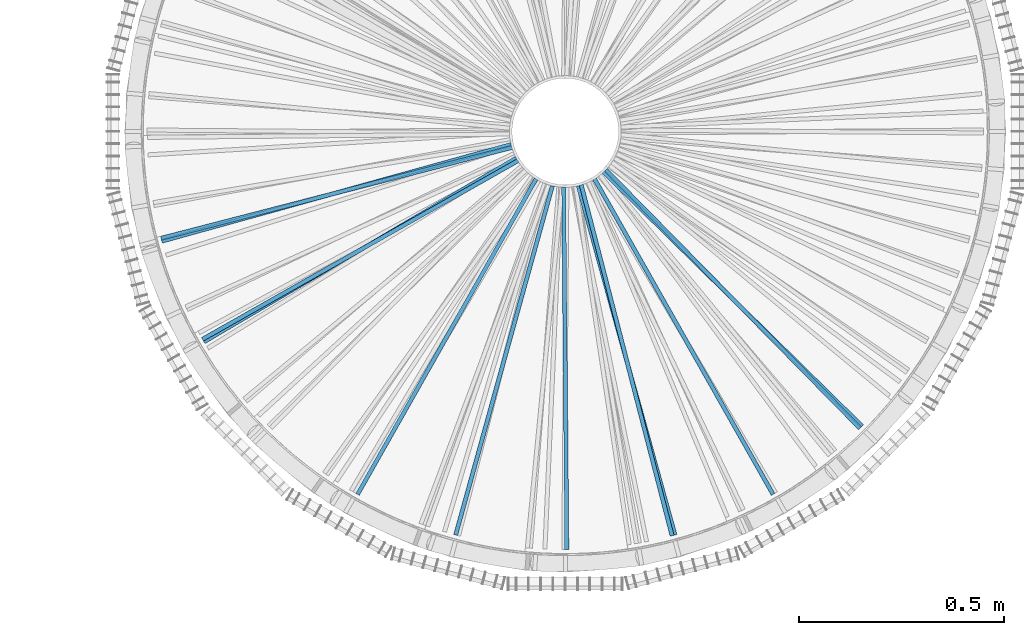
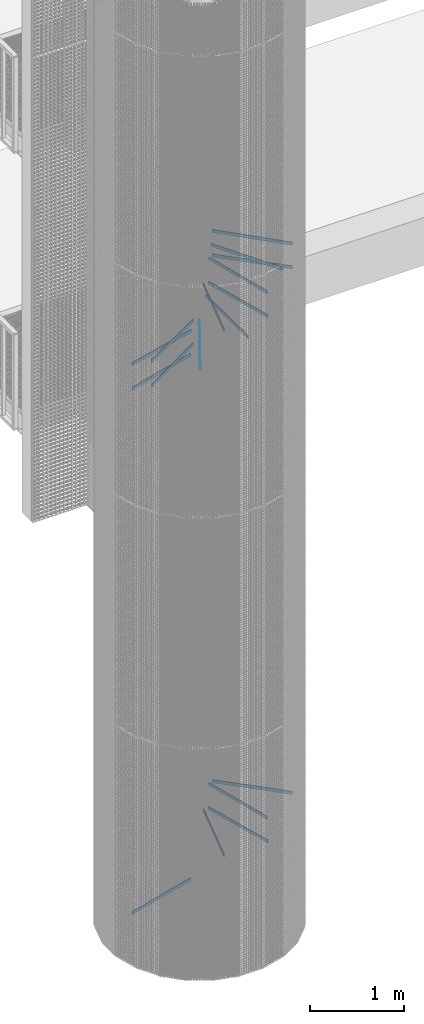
# One storey, part 178 of 1183: 17 beams, 2 elements without a shape of their own.
"""IFC2X3 building model written with IfcOpenShell, lengths in millimetres."""

from ifc_helpers import new_model, si_unit, frame, origin_with_axes, origin_2d_with_axis, place, context, subcontext, project, spatial, polyline, rectangle, outline, extrude, boolean, material, type_object, element, aggregate, save


model = new_model("IFC2X3")

# Units and contexts
model_context = context("Model", 3, precision=1e-05, world=origin_with_axes())
body_context = subcontext(model_context, "Body", "Model", "MODEL_VIEW")
ifc_project = project(units=[si_unit("LENGTHUNIT", "METRE", prefix="MILLI"), si_unit("AREAUNIT", "SQUARE_METRE"), si_unit("VOLUMEUNIT", "CUBIC_METRE"), si_unit("MASSUNIT", "GRAM", prefix="KILO"), si_unit("TIMEUNIT", "SECOND"), si_unit("PLANEANGLEUNIT", "RADIAN"), si_unit("SOLIDANGLEUNIT", "STERADIAN"), si_unit("THERMODYNAMICTEMPERATUREUNIT", "DEGREE_CELSIUS"), si_unit("LUMINOUSINTENSITYUNIT", "LUMEN")], contexts=[model_context])

# Site, building, storey
site_placement = place(None, origin_with_axes())
site = spatial("IfcSite", under=ifc_project, at=site_placement, Name="Undefined", CompositionType="ELEMENT")
building_placement = place(site_placement, origin_with_axes())
building = spatial("IfcBuilding", under=site, at=building_placement, Name="Undefined", CompositionType="ELEMENT")
storey_placement = place(building_placement, origin_with_axes())
storey = spatial("IfcBuildingStorey", under=building, at=storey_placement, Name="Undefined", CompositionType="ELEMENT", Elevation=0.0)

# Assembly, beams
assembly_1_placement = place(storey_placement, origin_with_axes())
assembly_1 = element("IfcElementAssembly", 1, at=assembly_1_placement, inside=storey, Name="POTEAU", AssemblyPlace="NOTDEFINED", PredefinedType="NOTDEFINED")
ifc_material = material(Name="STEEL/S235JR")
beam_type = type_object("IfcBeamType", Name="PL10*40", PredefinedType="NOTDEFINED")
beam_1_placement = place(assembly_1_placement, frame((25.8705774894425, -79.9781805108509, 8657.28000000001), z_axis=(0.0, 0.0, 1.0), x_axis=(0.250629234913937, -0.968083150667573, 0.0)))
beam_1 = element("IfcBeam", 2, at=beam_1_placement, type_object=beam_type, material=ifc_material, Name="RAIDISSEUR", context=body_context, shape_type="CSG", body=[
    boolean("DIFFERENCE", extrude(rectangle(XDim=10.0, YDim=40.0, at=origin_2d_with_axis()), frame((935.982964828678, -2.59787459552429e-14, -3.63797880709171e-12), z_axis=(-1.0, 0.0, 0.0), x_axis=(0.0, -1.0, 0.0)), (0.0, 0.0, 1.0), 935.98), extrude(outline(polyline([(0.0, 0.0), (30.5663019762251, -4.91127138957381e-11), (60.366242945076, 6.80164206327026), (87.9055294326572, 20.0638634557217), (111.803226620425, 39.1216410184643), (130.861004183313, 63.0193382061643), (144.123225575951, 90.5586246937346), (150.9248676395, 120.358565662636), (150.924867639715, 150.924867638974), (144.123225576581, 180.724808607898), (130.86100418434, 208.264095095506), (111.803226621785, 232.161792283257), (87.9055294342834, 251.219569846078), (60.3662429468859, 264.481791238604), (30.5663019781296, 271.283433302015), (1.90266291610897e-09, 271.28343330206), (-29.7999409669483, 264.481791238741), (-57.3392274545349, 251.219569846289), (-81.2369246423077, 232.161792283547), (-100.294702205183, 208.26409509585), (-113.556923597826, 180.724808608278), (-120.35856566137, 150.92486763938), (-120.358565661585, 120.358565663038), (-113.556923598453, 90.5586246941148), (-100.294702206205, 63.0193382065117), (-81.2369246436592, 39.1216410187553), (-57.3392274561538, 20.0638634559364), (-29.7999409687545, 6.80164206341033), (0.0, 0.0)])), frame((-121.404134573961, -136.249376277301, -22.5), z_axis=(0.0, 0.0, 1.0), x_axis=(0.986243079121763, -0.165301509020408, 0.0)), (0.0, 0.0, 1.0), 45.0)),
])
beam_2_placement = place(assembly_1_placement, frame((-17.5845129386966, -82.1984248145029, 8344.24000000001), z_axis=(0.0, 0.0, 1.0), x_axis=(-0.266990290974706, -0.963699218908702, 0.0)))
beam_2 = element("IfcBeam", 3, at=beam_2_placement, type_object=beam_type, material=ifc_material, Name="RAIDISSEUR", context=body_context, shape_type="CSG", body=[
    boolean("DIFFERENCE", extrude(rectangle(XDim=10.0, YDim=40.0, at=origin_2d_with_axis()), frame((935.982964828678, -2.59787459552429e-14, -3.63797880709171e-12), z_axis=(-1.0, 0.0, 0.0), x_axis=(0.0, -1.0, 0.0)), (0.0, 0.0, 1.0), 935.98), extrude(outline(polyline([(0.0, 0.0), (30.5663019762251, -4.91127138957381e-11), (60.366242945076, 6.80164206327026), (87.9055294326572, 20.0638634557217), (111.803226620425, 39.1216410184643), (130.861004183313, 63.0193382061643), (144.123225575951, 90.5586246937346), (150.9248676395, 120.358565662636), (150.924867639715, 150.924867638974), (144.123225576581, 180.724808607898), (130.86100418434, 208.264095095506), (111.803226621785, 232.161792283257), (87.9055294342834, 251.219569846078), (60.3662429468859, 264.481791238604), (30.5663019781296, 271.283433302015), (1.90266291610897e-09, 271.28343330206), (-29.7999409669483, 264.481791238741), (-57.3392274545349, 251.219569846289), (-81.2369246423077, 232.161792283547), (-100.294702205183, 208.26409509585), (-113.556923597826, 180.724808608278), (-120.35856566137, 150.92486763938), (-120.358565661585, 120.358565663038), (-113.556923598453, 90.5586246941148), (-100.294702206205, 63.0193382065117), (-81.2369246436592, 39.1216410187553), (-57.3392274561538, 20.0638634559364), (-29.7999409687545, 6.80164206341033), (0.0, 0.0)])), frame((-50.7561114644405, -137.412635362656, -22.5), z_axis=(0.0, 0.0, 1.0), x_axis=(0.936762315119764, 0.349966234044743, 0.0)), (0.0, 0.0, 1.0), 45.0)),
])
beam_3_placement = place(assembly_1_placement, frame((-74.8463745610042, -38.2598530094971, 7561.64), z_axis=(0.0, 0.0, 1.0), x_axis=(-0.861759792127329, -0.507316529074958, 0.0)))
beam_3 = element("IfcBeam", 4, at=beam_3_placement, type_object=beam_type, material=ifc_material, Name="RAIDISSEUR", context=body_context, shape_type="CSG", body=[
    boolean("DIFFERENCE", extrude(rectangle(XDim=10.0, YDim=40.0, at=origin_2d_with_axis()), frame((935.982964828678, -2.59787459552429e-14, -3.63797880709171e-12), z_axis=(-1.0, 0.0, 0.0), x_axis=(0.0, -1.0, 0.0)), (0.0, 0.0, 1.0), 935.98), extrude(outline(polyline([(0.0, 0.0), (30.5663019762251, -4.91127138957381e-11), (60.366242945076, 6.80164206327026), (87.9055294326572, 20.0638634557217), (111.803226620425, 39.1216410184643), (130.861004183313, 63.0193382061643), (144.123225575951, 90.5586246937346), (150.9248676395, 120.358565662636), (150.924867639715, 150.924867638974), (144.123225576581, 180.724808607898), (130.86100418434, 208.264095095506), (111.803226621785, 232.161792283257), (87.9055294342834, 251.219569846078), (60.3662429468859, 264.481791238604), (30.5663019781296, 271.283433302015), (1.90266291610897e-09, 271.28343330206), (-29.7999409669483, 264.481791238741), (-57.3392274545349, 251.219569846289), (-81.2369246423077, 232.161792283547), (-100.294702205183, 208.26409509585), (-113.556923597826, 180.724808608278), (-120.35856566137, 150.92486763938), (-120.358565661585, 120.358565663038), (-113.556923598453, 90.5586246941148), (-100.294702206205, 63.0193382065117), (-81.2369246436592, 39.1216410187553), (-57.3392274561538, 20.0638634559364), (-29.7999409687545, 6.80164206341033), (0.0, 0.0)])), frame((31.9577797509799, -67.1597852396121, -22.5000000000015), z_axis=(0.0, 0.0, 1.0), x_axis=(0.430278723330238, 0.902696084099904, 0.0)), (0.0, 0.0, 1.0), 45.0)),
])
beam_4_placement = place(assembly_1_placement, frame((62.3936675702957, -56.3278473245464, 8970.32000000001), z_axis=(0.0, 0.0, 1.0), x_axis=(0.701092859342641, -0.713069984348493, 0.0)))
beam_4 = element("IfcBeam", 5, at=beam_4_placement, type_object=beam_type, material=ifc_material, Name="RAIDISSEUR", context=body_context, shape_type="CSG", body=[
    boolean("DIFFERENCE", extrude(rectangle(XDim=10.0, YDim=40.0, at=origin_2d_with_axis()), frame((935.982964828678, -2.59787459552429e-14, -3.63797880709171e-12), z_axis=(-1.0, 0.0, 0.0), x_axis=(0.0, -1.0, 0.0)), (0.0, 0.0, 1.0), 935.98), extrude(outline(polyline([(0.0, 0.0), (30.5663019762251, -4.91127138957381e-11), (60.366242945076, 6.80164206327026), (87.9055294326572, 20.0638634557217), (111.803226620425, 39.1216410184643), (130.861004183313, 63.0193382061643), (144.123225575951, 90.5586246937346), (150.9248676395, 120.358565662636), (150.924867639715, 150.924867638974), (144.123225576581, 180.724808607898), (130.86100418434, 208.264095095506), (111.803226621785, 232.161792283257), (87.9055294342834, 251.219569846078), (60.3662429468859, 264.481791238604), (30.5663019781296, 271.283433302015), (1.90266291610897e-09, 271.28343330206), (-29.7999409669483, 264.481791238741), (-57.3392274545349, 251.219569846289), (-81.2369246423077, 232.161792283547), (-100.294702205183, 208.26409509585), (-113.556923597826, 180.724808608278), (-120.35856566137, 150.92486763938), (-120.358565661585, 120.358565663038), (-113.556923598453, 90.5586246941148), (-100.294702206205, 63.0193382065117), (-81.2369246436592, 39.1216410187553), (-57.3392274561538, 20.0638634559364), (-29.7999409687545, 6.80164206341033), (0.0, 0.0)])), frame((-182.005487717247, -99.9179528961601, -22.5), z_axis=(0.0, 0.0, 1.0), x_axis=(0.771460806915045, -0.636276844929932, 0.0)), (0.0, 0.0, 1.0), 45.0)),
])
beam_5_placement = place(assembly_1_placement, frame((-82.1984248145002, -17.5845129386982, 7405.12), z_axis=(0.0, 0.0, 1.0), x_axis=(-0.963699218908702, -0.266990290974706, 0.0)))
beam_5 = element("IfcBeam", 6, at=beam_5_placement, type_object=beam_type, material=ifc_material, Name="RAIDISSEUR", context=body_context, shape_type="CSG", body=[
    boolean("DIFFERENCE", extrude(rectangle(XDim=10.0, YDim=40.0, at=origin_2d_with_axis()), frame((935.982964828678, -2.59787459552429e-14, -3.63797880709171e-12), z_axis=(-1.0, 0.0, 0.0), x_axis=(0.0, -1.0, 0.0)), (0.0, 0.0, 1.0), 935.98), extrude(outline(polyline([(0.0, 0.0), (30.5663019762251, -4.91127138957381e-11), (60.366242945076, 6.80164206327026), (87.9055294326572, 20.0638634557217), (111.803226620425, 39.1216410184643), (130.861004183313, 63.0193382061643), (144.123225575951, 90.5586246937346), (150.9248676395, 120.358565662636), (150.924867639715, 150.924867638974), (144.123225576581, 180.724808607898), (130.86100418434, 208.264095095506), (111.803226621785, 232.161792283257), (87.9055294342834, 251.219569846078), (60.3662429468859, 264.481791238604), (30.5663019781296, 271.283433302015), (1.90266291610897e-09, 271.28343330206), (-29.7999409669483, 264.481791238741), (-57.3392274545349, 251.219569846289), (-81.2369246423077, 232.161792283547), (-100.294702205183, 208.26409509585), (-113.556923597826, 180.724808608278), (-120.35856566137, 150.92486763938), (-120.358565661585, 120.358565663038), (-113.556923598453, 90.5586246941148), (-100.294702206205, 63.0193382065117), (-81.2369246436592, 39.1216410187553), (-57.3392274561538, 20.0638634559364), (-29.7999409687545, 6.80164206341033), (0.0, 0.0)])), frame((46.6860262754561, -34.7123538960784, -22.5), z_axis=(0.0, 0.0, 1.0), x_axis=(0.181982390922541, 0.983301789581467, 0.0)), (0.0, 0.0, 1.0), 45.0)),
])
beam_6_placement = place(assembly_1_placement, frame((-70.5571919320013, -45.6889352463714, 7874.68), z_axis=(0.0, 0.0, 1.0), x_axis=(-0.870228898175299, -0.492647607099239, 0.0)))
beam_6 = element("IfcBeam", 7, at=beam_6_placement, type_object=beam_type, material=ifc_material, Name="RAIDISSEUR", context=body_context, shape_type="CSG", body=[
    boolean("DIFFERENCE", extrude(rectangle(XDim=10.0, YDim=40.0, at=origin_2d_with_axis()), frame((935.982964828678, -2.59787459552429e-14, -3.63797880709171e-12), z_axis=(-1.0, 0.0, 0.0), x_axis=(0.0, -1.0, 0.0)), (0.0, 0.0, 1.0), 935.98), extrude(outline(polyline([(0.0, 0.0), (30.5663019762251, -4.91127138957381e-11), (60.366242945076, 6.80164206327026), (87.9055294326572, 20.0638634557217), (111.803226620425, 39.1216410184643), (130.861004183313, 63.0193382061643), (144.123225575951, 90.5586246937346), (150.9248676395, 120.358565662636), (150.924867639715, 150.924867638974), (144.123225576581, 180.724808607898), (130.86100418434, 208.264095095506), (111.803226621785, 232.161792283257), (87.9055294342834, 251.219569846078), (60.3662429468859, 264.481791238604), (30.5663019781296, 271.283433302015), (1.90266291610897e-09, 271.28343330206), (-29.7999409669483, 264.481791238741), (-57.3392274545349, 251.219569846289), (-81.2369246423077, 232.161792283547), (-100.294702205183, 208.26409509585), (-113.556923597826, 180.724808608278), (-120.35856566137, 150.92486763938), (-120.358565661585, 120.358565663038), (-113.556923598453, 90.5586246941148), (-100.294702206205, 63.0193382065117), (-81.2369246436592, 39.1216410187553), (-57.3392274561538, 20.0638634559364), (-29.7999409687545, 6.80164206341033), (0.0, 0.0)])), frame((33.1633723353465, -75.1869204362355, -22.5), z_axis=(0.0, 0.0, 1.0), x_axis=(0.414927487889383, 0.909854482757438, 0.0)), (0.0, 0.0, 1.0), 45.0)),
])
beam_7_placement = place(assembly_1_placement, frame((-45.6889352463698, -70.5571919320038, 7874.68), z_axis=(0.0, 0.0, 1.0), x_axis=(-0.492647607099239, -0.870228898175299, 0.0)))
beam_7 = element("IfcBeam", 8, at=beam_7_placement, type_object=beam_type, material=ifc_material, Name="RAIDISSEUR", context=body_context, shape_type="CSG", body=[
    boolean("DIFFERENCE", extrude(rectangle(XDim=10.0, YDim=40.0, at=origin_2d_with_axis()), frame((935.982964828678, -2.59787459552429e-14, -3.63797880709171e-12), z_axis=(-1.0, 0.0, 0.0), x_axis=(0.0, -1.0, 0.0)), (0.0, 0.0, 1.0), 935.98), extrude(outline(polyline([(0.0, 0.0), (30.5663019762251, -4.91127138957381e-11), (60.366242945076, 6.80164206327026), (87.9055294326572, 20.0638634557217), (111.803226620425, 39.1216410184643), (130.861004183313, 63.0193382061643), (144.123225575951, 90.5586246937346), (150.9248676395, 120.358565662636), (150.924867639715, 150.924867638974), (144.123225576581, 180.724808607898), (130.86100418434, 208.264095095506), (111.803226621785, 232.161792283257), (87.9055294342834, 251.219569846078), (60.3662429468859, 264.481791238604), (30.5663019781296, 271.283433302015), (1.90266291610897e-09, 271.28343330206), (-29.7999409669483, 264.481791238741), (-57.3392274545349, 251.219569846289), (-81.2369246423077, 232.161792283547), (-100.294702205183, 208.26409509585), (-113.556923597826, 180.724808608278), (-120.35856566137, 150.92486763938), (-120.358565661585, 120.358565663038), (-113.556923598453, 90.5586246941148), (-100.294702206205, 63.0193382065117), (-81.2369246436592, 39.1216410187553), (-57.3392274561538, 20.0638634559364), (-29.7999409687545, 6.80164206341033), (0.0, 0.0)])), frame((-19.6453784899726, -115.425823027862, -22.5), z_axis=(0.0, 0.0, 1.0), x_axis=(0.823980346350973, 0.56661838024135, 0.0)), (0.0, 0.0, 1.0), 45.0)),
])
beam_8_placement = place(assembly_1_placement, frame((-79.9781805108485, -25.8705774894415, 7718.16), z_axis=(0.0, 0.0, 1.0), x_axis=(-0.968083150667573, -0.250629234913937, 0.0)))
beam_8 = element("IfcBeam", 9, at=beam_8_placement, type_object=beam_type, material=ifc_material, Name="RAIDISSEUR", context=body_context, shape_type="CSG", body=[
    boolean("DIFFERENCE", extrude(rectangle(XDim=10.0, YDim=40.0, at=origin_2d_with_axis()), frame((935.982964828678, -2.59787459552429e-14, -3.63797880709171e-12), z_axis=(-1.0, 0.0, 0.0), x_axis=(0.0, -1.0, 0.0)), (0.0, 0.0, 1.0), 935.98), extrude(outline(polyline([(0.0, 0.0), (30.5663019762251, -4.91127138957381e-11), (60.366242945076, 6.80164206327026), (87.9055294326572, 20.0638634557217), (111.803226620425, 39.1216410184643), (130.861004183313, 63.0193382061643), (144.123225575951, 90.5586246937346), (150.9248676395, 120.358565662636), (150.924867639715, 150.924867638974), (144.123225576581, 180.724808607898), (130.86100418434, 208.264095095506), (111.803226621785, 232.161792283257), (87.9055294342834, 251.219569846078), (60.3662429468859, 264.481791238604), (30.5663019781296, 271.283433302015), (1.90266291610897e-09, 271.28343330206), (-29.7999409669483, 264.481791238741), (-57.3392274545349, 251.219569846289), (-81.2369246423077, 232.161792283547), (-100.294702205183, 208.26409509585), (-113.556923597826, 180.724808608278), (-120.35856566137, 150.92486763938), (-120.358565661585, 120.358565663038), (-113.556923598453, 90.5586246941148), (-100.294702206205, 63.0193382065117), (-81.2369246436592, 39.1216410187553), (-57.3392274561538, 20.0638634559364), (-29.7999409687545, 6.80164206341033), (0.0, 0.0)])), frame((47.3399242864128, -42.4946825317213, -22.4999999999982), z_axis=(0.0, 0.0, 1.0), x_axis=(0.165301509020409, 0.986243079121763, 0.0)), (0.0, 0.0, 1.0), 45.0)),
])
beam_9_placement = place(assembly_1_placement, frame((-4.28918262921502, -83.9487882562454, 8187.72), z_axis=(0.0, 0.0, 1.0), x_axis=(0.00846910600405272, -0.99996413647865, 0.0)))
beam_9 = element("IfcBeam", 10, at=beam_9_placement, type_object=beam_type, material=ifc_material, Name="RAIDISSEUR", context=body_context, shape_type="CSG", body=[
    boolean("DIFFERENCE", extrude(rectangle(XDim=10.0, YDim=40.0, at=origin_2d_with_axis()), frame((935.982964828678, -2.59787459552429e-14, -3.63797880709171e-12), z_axis=(-1.0, 0.0, 0.0), x_axis=(0.0, -1.0, 0.0)), (0.0, 0.0, 1.0), 935.98), extrude(outline(polyline([(0.0, 0.0), (30.5663019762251, -4.91127138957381e-11), (60.366242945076, 6.80164206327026), (87.9055294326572, 20.0638634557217), (111.803226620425, 39.1216410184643), (130.861004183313, 63.0193382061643), (144.123225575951, 90.5586246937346), (150.9248676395, 120.358565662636), (150.924867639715, 150.924867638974), (144.123225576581, 180.724808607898), (130.86100418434, 208.264095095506), (111.803226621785, 232.161792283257), (87.9055294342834, 251.219569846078), (60.3662429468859, 264.481791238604), (30.5663019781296, 271.283433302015), (1.90266291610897e-09, 271.28343330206), (-29.7999409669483, 264.481791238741), (-57.3392274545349, 251.219569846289), (-81.2369246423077, 232.161792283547), (-100.294702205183, 208.26409509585), (-113.556923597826, 180.724808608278), (-120.35856566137, 150.92486763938), (-120.358565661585, 120.358565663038), (-113.556923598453, 90.5586246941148), (-100.294702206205, 63.0193382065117), (-81.2369246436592, 39.1216410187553), (-57.3392274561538, 20.0638634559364), (-29.7999409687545, 6.80164206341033), (0.0, 0.0)])), frame((-88.4680432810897, -131.423858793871, -22.5000000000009), z_axis=(0.0, 0.0, 1.0), x_axis=(0.996897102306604, 0.0787157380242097, 0.0)), (0.0, 0.0, 1.0), 45.0)),
])
beam_10_placement = place(assembly_1_placement, frame((17.5845129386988, -82.1984248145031, 8344.24000000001), z_axis=(0.0, 0.0, 1.0), x_axis=(0.266990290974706, -0.963699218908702, 0.0)))
beam_10 = element("IfcBeam", 11, at=beam_10_placement, type_object=beam_type, material=ifc_material, Name="RAIDISSEUR", context=body_context, shape_type="CSG", body=[
    boolean("DIFFERENCE", extrude(rectangle(XDim=10.0, YDim=40.0, at=origin_2d_with_axis()), frame((935.982964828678, -2.59787459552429e-14, -3.63797880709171e-12), z_axis=(-1.0, 0.0, 0.0), x_axis=(0.0, -1.0, 0.0)), (0.0, 0.0, 1.0), 935.98), extrude(outline(polyline([(0.0, 0.0), (30.5663019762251, -4.91127138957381e-11), (60.366242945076, 6.80164206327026), (87.9055294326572, 20.0638634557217), (111.803226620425, 39.1216410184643), (130.861004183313, 63.0193382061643), (144.123225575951, 90.5586246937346), (150.9248676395, 120.358565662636), (150.924867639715, 150.924867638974), (144.123225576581, 180.724808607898), (130.86100418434, 208.264095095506), (111.803226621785, 232.161792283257), (87.9055294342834, 251.219569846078), (60.3662429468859, 264.481791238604), (30.5663019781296, 271.283433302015), (1.90266291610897e-09, 271.28343330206), (-29.7999409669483, 264.481791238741), (-57.3392274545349, 251.219569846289), (-81.2369246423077, 232.161792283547), (-100.294702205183, 208.26409509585), (-113.556923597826, 180.724808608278), (-120.35856566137, 150.92486763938), (-120.358565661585, 120.358565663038), (-113.556923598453, 90.5586246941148), (-100.294702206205, 63.0193382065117), (-81.2369246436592, 39.1216410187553), (-57.3392274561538, 20.0638634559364), (-29.7999409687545, 6.80164206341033), (0.0, 0.0)])), frame((-123.621805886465, -125.595478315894, -22.5), z_axis=(0.0, 0.0, 1.0), x_axis=(0.983301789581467, -0.181982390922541, 0.0)), (0.0, 0.0, 1.0), 45.0)),
])
beam_11_placement = place(assembly_1_placement, frame((56.3278473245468, -62.3936675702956, 8657.28000000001), z_axis=(0.0, 0.0, 1.0), x_axis=(0.713069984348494, -0.70109285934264, 0.0)))
beam_11 = element("IfcBeam", 12, at=beam_11_placement, type_object=beam_type, material=ifc_material, Name="RAIDISSEUR", context=body_context, shape_type="CSG", body=[
    boolean("DIFFERENCE", extrude(rectangle(XDim=10.0, YDim=40.0, at=origin_2d_with_axis()), frame((935.982964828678, -2.59787459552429e-14, -3.63797880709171e-12), z_axis=(-1.0, 0.0, 0.0), x_axis=(0.0, -1.0, 0.0)), (0.0, 0.0, 1.0), 935.98), extrude(outline(polyline([(0.0, 0.0), (30.5663019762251, -4.91127138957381e-11), (60.366242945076, 6.80164206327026), (87.9055294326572, 20.0638634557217), (111.803226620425, 39.1216410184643), (130.861004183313, 63.0193382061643), (144.123225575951, 90.5586246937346), (150.9248676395, 120.358565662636), (150.924867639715, 150.924867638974), (144.123225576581, 180.724808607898), (130.86100418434, 208.264095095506), (111.803226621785, 232.161792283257), (87.9055294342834, 251.219569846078), (60.3662429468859, 264.481791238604), (30.5663019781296, 271.283433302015), (1.90266291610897e-09, 271.28343330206), (-29.7999409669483, 264.481791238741), (-57.3392274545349, 251.219569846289), (-81.2369246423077, 232.161792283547), (-100.294702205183, 208.26409509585), (-113.556923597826, 180.724808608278), (-120.35856566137, 150.92486763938), (-120.358565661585, 120.358565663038), (-113.556923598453, 90.5586246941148), (-100.294702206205, 63.0193382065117), (-81.2369246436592, 39.1216410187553), (-57.3392274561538, 20.0638634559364), (-29.7999409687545, 6.80164206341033), (0.0, 0.0)])), frame((-183.599098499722, -88.2428248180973, -22.5), z_axis=(0.0, 0.0, 1.0), x_axis=(0.760573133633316, -0.649252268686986, 0.0)), (0.0, 0.0, 1.0), 45.0)),
])
beam_12_placement = place(assembly_1_placement, frame((45.6889352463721, -70.5571919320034, 8813.80000000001), z_axis=(0.0, 0.0, 1.0), x_axis=(0.492647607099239, -0.870228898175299, 0.0)))
beam_12 = element("IfcBeam", 13, at=beam_12_placement, type_object=beam_type, material=ifc_material, Name="RAIDISSEUR", context=body_context, shape_type="CSG", body=[
    boolean("DIFFERENCE", extrude(rectangle(XDim=10.0, YDim=40.0, at=origin_2d_with_axis()), frame((935.982964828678, -2.59787459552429e-14, -3.63797880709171e-12), z_axis=(-1.0, 0.0, 0.0), x_axis=(0.0, -1.0, 0.0)), (0.0, 0.0, 1.0), 935.98), extrude(outline(polyline([(0.0, 0.0), (30.5663019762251, -4.91127138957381e-11), (60.366242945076, 6.80164206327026), (87.9055294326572, 20.0638634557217), (111.803226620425, 39.1216410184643), (130.861004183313, 63.0193382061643), (144.123225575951, 90.5586246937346), (150.9248676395, 120.358565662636), (150.924867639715, 150.924867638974), (144.123225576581, 180.724808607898), (130.86100418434, 208.264095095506), (111.803226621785, 232.161792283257), (87.9055294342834, 251.219569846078), (60.3662429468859, 264.481791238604), (30.5663019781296, 271.283433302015), (1.90266291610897e-09, 271.28343330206), (-29.7999409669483, 264.481791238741), (-57.3392274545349, 251.219569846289), (-81.2369246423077, 232.161792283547), (-100.294702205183, 208.26409509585), (-113.556923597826, 180.724808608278), (-120.35856566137, 150.92486763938), (-120.358565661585, 120.358565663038), (-113.556923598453, 90.5586246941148), (-100.294702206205, 63.0193382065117), (-81.2369246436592, 39.1216410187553), (-57.3392274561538, 20.0638634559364), (-29.7999409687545, 6.80164206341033), (0.0, 0.0)])), frame((-154.096372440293, -122.072824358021, -22.5000000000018), z_axis=(0.0, 0.0, 1.0), x_axis=(0.909854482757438, -0.414927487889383, 0.0)), (0.0, 0.0, 1.0), 45.0)),
])
aggregate(assembly_1, [beam_1, beam_2, beam_3, beam_4, beam_5, beam_6, beam_7, beam_8, beam_9, beam_10, beam_11, beam_12])

assembly_2_placement = place(storey_placement, origin_with_axes())
assembly_2 = element("IfcElementAssembly", 14, at=assembly_2_placement, inside=storey, Name="POTEAU", AssemblyPlace="NOTDEFINED", PredefinedType="NOTDEFINED")
beam_13_placement = place(assembly_2_placement, frame((25.8705774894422, -79.9781805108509, 1830.24), z_axis=(0.0, 0.0, 1.0), x_axis=(0.250629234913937, -0.968083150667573, 0.0)))
beam_13 = element("IfcBeam", 15, at=beam_13_placement, type_object=beam_type, material=ifc_material, Name="RAIDISSEUR", context=body_context, shape_type="CSG", body=[
    boolean("DIFFERENCE", extrude(rectangle(XDim=10.0, YDim=40.0, at=origin_2d_with_axis()), frame((935.982964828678, -2.59787459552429e-14, -3.63797880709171e-12), z_axis=(-1.0, 0.0, 0.0), x_axis=(0.0, -1.0, 0.0)), (0.0, 0.0, 1.0), 935.98), extrude(outline(polyline([(0.0, 0.0), (30.5663019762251, -4.91127138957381e-11), (60.366242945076, 6.80164206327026), (87.9055294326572, 20.0638634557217), (111.803226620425, 39.1216410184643), (130.861004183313, 63.0193382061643), (144.123225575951, 90.5586246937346), (150.9248676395, 120.358565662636), (150.924867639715, 150.924867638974), (144.123225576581, 180.724808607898), (130.86100418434, 208.264095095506), (111.803226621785, 232.161792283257), (87.9055294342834, 251.219569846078), (60.3662429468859, 264.481791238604), (30.5663019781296, 271.283433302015), (1.90266291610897e-09, 271.28343330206), (-29.7999409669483, 264.481791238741), (-57.3392274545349, 251.219569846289), (-81.2369246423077, 232.161792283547), (-100.294702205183, 208.26409509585), (-113.556923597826, 180.724808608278), (-120.35856566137, 150.92486763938), (-120.358565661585, 120.358565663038), (-113.556923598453, 90.5586246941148), (-100.294702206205, 63.0193382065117), (-81.2369246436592, 39.1216410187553), (-57.3392274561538, 20.0638634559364), (-29.7999409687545, 6.80164206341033), (0.0, 0.0)])), frame((-121.404134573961, -136.249376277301, -22.5), z_axis=(0.0, 0.0, 1.0), x_axis=(0.986243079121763, -0.165301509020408, 0.0)), (0.0, 0.0, 1.0), 45.0)),
])
beam_14_placement = place(assembly_2_placement, frame((-82.1984248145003, -17.5845129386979, 594.08), z_axis=(0.0, 0.0, 1.0), x_axis=(-0.963699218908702, -0.266990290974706, 0.0)))
beam_14 = element("IfcBeam", 16, at=beam_14_placement, type_object=beam_type, material=ifc_material, Name="RAIDISSEUR", context=body_context, shape_type="CSG", body=[
    boolean("DIFFERENCE", extrude(rectangle(XDim=10.0, YDim=40.0, at=origin_2d_with_axis()), frame((935.982964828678, -2.59787459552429e-14, -3.63797880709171e-12), z_axis=(-1.0, 0.0, 0.0), x_axis=(0.0, -1.0, 0.0)), (0.0, 0.0, 1.0), 935.98), extrude(outline(polyline([(0.0, 0.0), (30.5663019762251, -4.91127138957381e-11), (60.366242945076, 6.80164206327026), (87.9055294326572, 20.0638634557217), (111.803226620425, 39.1216410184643), (130.861004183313, 63.0193382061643), (144.123225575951, 90.5586246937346), (150.9248676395, 120.358565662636), (150.924867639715, 150.924867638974), (144.123225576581, 180.724808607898), (130.86100418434, 208.264095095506), (111.803226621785, 232.161792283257), (87.9055294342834, 251.219569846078), (60.3662429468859, 264.481791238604), (30.5663019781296, 271.283433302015), (1.90266291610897e-09, 271.28343330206), (-29.7999409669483, 264.481791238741), (-57.3392274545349, 251.219569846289), (-81.2369246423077, 232.161792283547), (-100.294702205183, 208.26409509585), (-113.556923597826, 180.724808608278), (-120.35856566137, 150.92486763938), (-120.358565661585, 120.358565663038), (-113.556923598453, 90.5586246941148), (-100.294702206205, 63.0193382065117), (-81.2369246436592, 39.1216410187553), (-57.3392274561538, 20.0638634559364), (-29.7999409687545, 6.80164206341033), (0.0, 0.0)])), frame((46.6860262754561, -34.7123538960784, -22.5), z_axis=(0.0, 0.0, 1.0), x_axis=(0.181982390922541, 0.983301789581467, 0.0)), (0.0, 0.0, 1.0), 45.0)),
])
beam_15_placement = place(assembly_2_placement, frame((56.3278473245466, -62.3936675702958, 1830.24), z_axis=(0.0, 0.0, 1.0), x_axis=(0.713069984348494, -0.70109285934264, 0.0)))
beam_15 = element("IfcBeam", 17, at=beam_15_placement, type_object=beam_type, material=ifc_material, Name="RAIDISSEUR", context=body_context, shape_type="CSG", body=[
    boolean("DIFFERENCE", extrude(rectangle(XDim=10.0, YDim=40.0, at=origin_2d_with_axis()), frame((935.982964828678, -2.59787459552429e-14, -3.63797880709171e-12), z_axis=(-1.0, 0.0, 0.0), x_axis=(0.0, -1.0, 0.0)), (0.0, 0.0, 1.0), 935.98), extrude(outline(polyline([(0.0, 0.0), (30.5663019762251, -4.91127138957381e-11), (60.366242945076, 6.80164206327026), (87.9055294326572, 20.0638634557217), (111.803226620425, 39.1216410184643), (130.861004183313, 63.0193382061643), (144.123225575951, 90.5586246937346), (150.9248676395, 120.358565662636), (150.924867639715, 150.924867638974), (144.123225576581, 180.724808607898), (130.86100418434, 208.264095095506), (111.803226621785, 232.161792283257), (87.9055294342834, 251.219569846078), (60.3662429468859, 264.481791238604), (30.5663019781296, 271.283433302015), (1.90266291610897e-09, 271.28343330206), (-29.7999409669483, 264.481791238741), (-57.3392274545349, 251.219569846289), (-81.2369246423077, 232.161792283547), (-100.294702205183, 208.26409509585), (-113.556923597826, 180.724808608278), (-120.35856566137, 150.92486763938), (-120.358565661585, 120.358565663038), (-113.556923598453, 90.5586246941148), (-100.294702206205, 63.0193382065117), (-81.2369246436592, 39.1216410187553), (-57.3392274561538, 20.0638634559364), (-29.7999409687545, 6.80164206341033), (0.0, 0.0)])), frame((-183.599098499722, -88.2428248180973, -22.5), z_axis=(0.0, 0.0, 1.0), x_axis=(0.760573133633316, -0.649252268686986, 0.0)), (0.0, 0.0, 1.0), 45.0)),
])
beam_16_placement = place(assembly_2_placement, frame((17.5845129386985, -82.1984248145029, 1521.2), z_axis=(0.0, 0.0, 1.0), x_axis=(0.266990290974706, -0.963699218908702, 0.0)))
beam_16 = element("IfcBeam", 18, at=beam_16_placement, type_object=beam_type, material=ifc_material, Name="RAIDISSEUR", context=body_context, shape_type="CSG", body=[
    boolean("DIFFERENCE", extrude(rectangle(XDim=10.0, YDim=40.0, at=origin_2d_with_axis()), frame((935.982964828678, -2.59787459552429e-14, -3.63797880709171e-12), z_axis=(-1.0, 0.0, 0.0), x_axis=(0.0, -1.0, 0.0)), (0.0, 0.0, 1.0), 935.98), extrude(outline(polyline([(0.0, 0.0), (30.5663019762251, -4.91127138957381e-11), (60.366242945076, 6.80164206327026), (87.9055294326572, 20.0638634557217), (111.803226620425, 39.1216410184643), (130.861004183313, 63.0193382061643), (144.123225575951, 90.5586246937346), (150.9248676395, 120.358565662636), (150.924867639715, 150.924867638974), (144.123225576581, 180.724808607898), (130.86100418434, 208.264095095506), (111.803226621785, 232.161792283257), (87.9055294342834, 251.219569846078), (60.3662429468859, 264.481791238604), (30.5663019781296, 271.283433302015), (1.90266291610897e-09, 271.28343330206), (-29.7999409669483, 264.481791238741), (-57.3392274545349, 251.219569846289), (-81.2369246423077, 232.161792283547), (-100.294702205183, 208.26409509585), (-113.556923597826, 180.724808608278), (-120.35856566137, 150.92486763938), (-120.358565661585, 120.358565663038), (-113.556923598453, 90.5586246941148), (-100.294702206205, 63.0193382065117), (-81.2369246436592, 39.1216410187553), (-57.3392274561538, 20.0638634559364), (-29.7999409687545, 6.80164206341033), (0.0, 0.0)])), frame((-123.621805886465, -125.595478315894, -22.5), z_axis=(0.0, 0.0, 1.0), x_axis=(0.983301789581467, -0.181982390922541, 0.0)), (0.0, 0.0, 1.0), 45.0)),
])
beam_17_placement = place(assembly_2_placement, frame((-17.5845129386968, -82.1984248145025, 1521.2), z_axis=(0.0, 0.0, 1.0), x_axis=(-0.266990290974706, -0.963699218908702, 0.0)))
beam_17 = element("IfcBeam", 19, at=beam_17_placement, type_object=beam_type, material=ifc_material, Name="RAIDISSEUR", context=body_context, shape_type="CSG", body=[
    boolean("DIFFERENCE", extrude(rectangle(XDim=10.0, YDim=40.0, at=origin_2d_with_axis()), frame((935.982964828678, -2.59787459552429e-14, -3.63797880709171e-12), z_axis=(-1.0, 0.0, 0.0), x_axis=(0.0, -1.0, 0.0)), (0.0, 0.0, 1.0), 935.98), extrude(outline(polyline([(0.0, 0.0), (30.5663019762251, -4.91127138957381e-11), (60.366242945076, 6.80164206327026), (87.9055294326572, 20.0638634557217), (111.803226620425, 39.1216410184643), (130.861004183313, 63.0193382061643), (144.123225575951, 90.5586246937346), (150.9248676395, 120.358565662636), (150.924867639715, 150.924867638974), (144.123225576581, 180.724808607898), (130.86100418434, 208.264095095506), (111.803226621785, 232.161792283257), (87.9055294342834, 251.219569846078), (60.3662429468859, 264.481791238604), (30.5663019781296, 271.283433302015), (1.90266291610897e-09, 271.28343330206), (-29.7999409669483, 264.481791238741), (-57.3392274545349, 251.219569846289), (-81.2369246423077, 232.161792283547), (-100.294702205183, 208.26409509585), (-113.556923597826, 180.724808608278), (-120.35856566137, 150.92486763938), (-120.358565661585, 120.358565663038), (-113.556923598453, 90.5586246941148), (-100.294702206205, 63.0193382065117), (-81.2369246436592, 39.1216410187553), (-57.3392274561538, 20.0638634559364), (-29.7999409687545, 6.80164206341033), (0.0, 0.0)])), frame((-50.7561114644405, -137.412635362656, -22.5), z_axis=(0.0, 0.0, 1.0), x_axis=(0.936762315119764, 0.349966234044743, 0.0)), (0.0, 0.0, 1.0), 45.0)),
])
aggregate(assembly_2, [beam_13, beam_14, beam_15, beam_16, beam_17])

save(model, "model.ifc")
